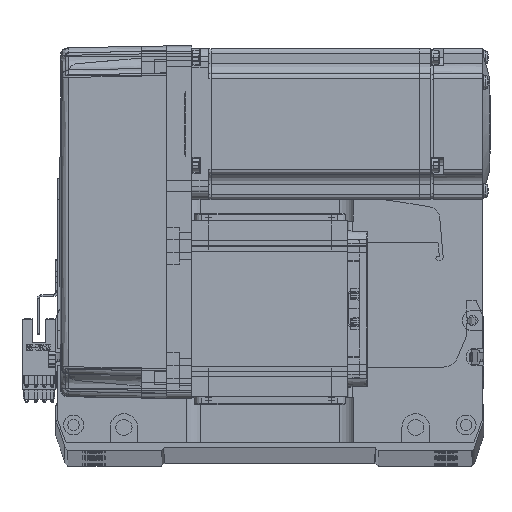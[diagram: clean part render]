
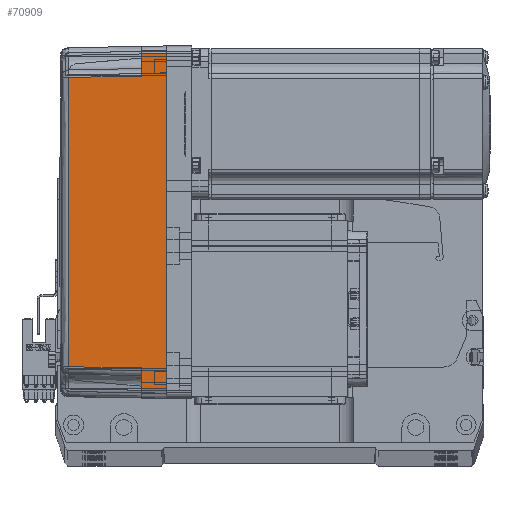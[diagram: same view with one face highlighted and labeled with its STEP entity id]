
A CAD part, top view. The second image highlights one B-rep face of the part: STEP entity #70909.
In plain terms, the highlighted planar face has unit normal (-0.018, 0, 1) as drawn and (0, 1, 0.017) by its records, which use the part's own axes.
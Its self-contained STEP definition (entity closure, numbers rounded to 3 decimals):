
#754 = VERTEX_POINT ( 'NONE', #69204 ) ;
#3755 = VECTOR ( 'NONE', #35608, 1000. ) ;
#6922 = CARTESIAN_POINT ( 'NONE',  ( -67., 36., 0. ) ) ;
#7499 = CARTESIAN_POINT ( 'NONE',  ( -57.495, 35.32, 38.985 ) ) ;
#8690 = ORIENTED_EDGE ( 'NONE', *, *, #19859, .F. ) ;
#10860 = VECTOR ( 'NONE', #33513, 1000. ) ;
#11563 = VECTOR ( 'NONE', #56513, 1000. ) ;
#12088 = PLANE ( 'NONE',  #29122 ) ;
#13257 = EDGE_CURVE ( 'NONE', #24524, #754, #15878, .T. ) ;
#15878 = LINE ( 'NONE', #17580, #25585 ) ;
#16186 = LINE ( 'NONE', #55771, #10860 ) ;
#16965 = CARTESIAN_POINT ( 'NONE',  ( 57.495, 35.32, 38.985 ) ) ;
#17580 = CARTESIAN_POINT ( 'NONE',  ( 67.001, 36.001, -0.052 ) ) ;
#19859 = EDGE_CURVE ( 'NONE', #69036, #24524, #16186, .T. ) ;
#24289 = CARTESIAN_POINT ( 'NONE',  ( 70., 35.825, 10. ) ) ;
#24365 = ORIENTED_EDGE ( 'NONE', *, *, #41994, .T. ) ;
#24524 = VERTEX_POINT ( 'NONE', #55823 ) ;
#24659 = FACE_OUTER_BOUND ( 'NONE', #27428, .T. ) ;
#25585 = VECTOR ( 'NONE', #73208, 1000. ) ;
#26582 = EDGE_CURVE ( 'NONE', #63835, #47398, #62790, .T. ) ;
#26739 = LINE ( 'NONE', #24289, #3755 ) ;
#27428 = EDGE_LOOP ( 'NONE', ( #24365, #64931, #43240, #48612, #41621, #54743, #56243, #8690 ) ) ;
#29122 = AXIS2_PLACEMENT_3D ( 'NONE', #46162, #46683, #41462 ) ;
#30472 = B_SPLINE_CURVE_WITH_KNOTS ( 'NONE', 3,
 ( #48054, #42864, #60383, #31680 ),
 .UNSPECIFIED., .F., .F.,
 ( 4, 4 ),
 ( 0., 1. ),
 .UNSPECIFIED. ) ;
#31680 = CARTESIAN_POINT ( 'NONE',  ( 57.495, 35.32, 38.985 ) ) ;
#33412 = CARTESIAN_POINT ( 'NONE',  ( 58., 35.825, 10. ) ) ;
#33513 = DIRECTION ( 'NONE',  ( 1., 0., 0. ) ) ;
#34442 = EDGE_CURVE ( 'NONE', #43802, #34929, #41595, .T. ) ;
#34718 = EDGE_CURVE ( 'NONE', #47398, #43802, #30472, .T. ) ;
#34929 = VERTEX_POINT ( 'NONE', #33412 ) ;
#35357 = DIRECTION ( 'NONE',  ( 0.017, -0.017, 1. ) ) ;
#35608 = DIRECTION ( 'NONE',  ( 1., 0., 0. ) ) ;
#36558 = VECTOR ( 'NONE', #41031, 1000. ) ;
#36569 = DIRECTION ( 'NONE',  ( 0.017, -0.017, 1. ) ) ;
#38953 = CARTESIAN_POINT ( 'NONE',  ( -66.826, 35.825, 10. ) ) ;
#39642 = CARTESIAN_POINT ( 'NONE',  ( 57.495, 35.32, 38.985 ) ) ;
#40788 = CARTESIAN_POINT ( 'NONE',  ( 70., 35.825, 10. ) ) ;
#41031 = DIRECTION ( 'NONE',  ( 1., 0., 0. ) ) ;
#41462 = DIRECTION ( 'NONE',  ( 0., -0.017, 1. ) ) ;
#41595 = LINE ( 'NONE', #16965, #11563 ) ;
#41621 = ORIENTED_EDGE ( 'NONE', *, *, #34442, .T. ) ;
#41994 = EDGE_CURVE ( 'NONE', #69036, #66992, #70968, .T. ) ;
#42099 = EDGE_CURVE ( 'NONE', #34929, #754, #26739, .T. ) ;
#42864 = CARTESIAN_POINT ( 'NONE',  ( -19.165, 35.316, 39.181 ) ) ;
#43240 = ORIENTED_EDGE ( 'NONE', *, *, #26582, .T. ) ;
#43802 = VERTEX_POINT ( 'NONE', #39642 ) ;
#45363 = VECTOR ( 'NONE', #35357, 1000. ) ;
#46162 = CARTESIAN_POINT ( 'NONE',  ( 70., 36., 0. ) ) ;
#46683 = DIRECTION ( 'NONE',  ( 0., 1., 0.017 ) ) ;
#47398 = VERTEX_POINT ( 'NONE', #7499 ) ;
#48054 = CARTESIAN_POINT ( 'NONE',  ( -57.495, 35.32, 38.985 ) ) ;
#48612 = ORIENTED_EDGE ( 'NONE', *, *, #34718, .T. ) ;
#53919 = CARTESIAN_POINT ( 'NONE',  ( -58., 35.825, 10. ) ) ;
#54743 = ORIENTED_EDGE ( 'NONE', *, *, #42099, .T. ) ;
#55771 = CARTESIAN_POINT ( 'NONE',  ( 0., 36., 0. ) ) ;
#55823 = CARTESIAN_POINT ( 'NONE',  ( 67., 36., 0. ) ) ;
#56048 = LINE ( 'NONE', #40788, #36558 ) ;
#56243 = ORIENTED_EDGE ( 'NONE', *, *, #13257, .F. ) ;
#56513 = DIRECTION ( 'NONE',  ( 0.017, 0.017, -1. ) ) ;
#60383 = CARTESIAN_POINT ( 'NONE',  ( 19.165, 35.316, 39.181 ) ) ;
#61947 = VECTOR ( 'NONE', #36569, 1000. ) ;
#62381 = CARTESIAN_POINT ( 'NONE',  ( -67., 36., 0. ) ) ;
#62611 = EDGE_CURVE ( 'NONE', #66992, #63835, #56048, .T. ) ;
#62790 = LINE ( 'NONE', #64798, #61947 ) ;
#63835 = VERTEX_POINT ( 'NONE', #53919 ) ;
#64798 = CARTESIAN_POINT ( 'NONE',  ( -58., 35.825, 10. ) ) ;
#64931 = ORIENTED_EDGE ( 'NONE', *, *, #62611, .T. ) ;
#66992 = VERTEX_POINT ( 'NONE', #38953 ) ;
#69036 = VERTEX_POINT ( 'NONE', #6922 ) ;
#69204 = CARTESIAN_POINT ( 'NONE',  ( 66.826, 35.825, 10. ) ) ;
#70909 = ADVANCED_FACE ( 'NONE', ( #24659 ), #12088, .T. ) ;
#70968 = LINE ( 'NONE', #62381, #45363 ) ;
#73208 = DIRECTION ( 'NONE',  ( -0.017, -0.017, 1. ) ) ;
